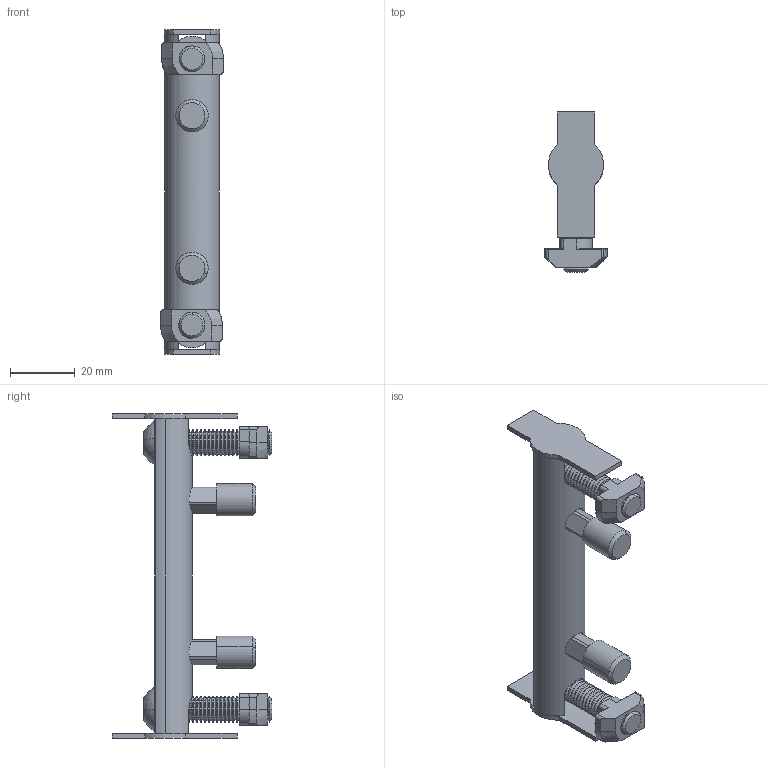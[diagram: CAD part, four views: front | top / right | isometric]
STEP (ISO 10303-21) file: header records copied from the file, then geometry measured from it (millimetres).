
FILE_DESCRIPTION (( 'STEP AP203' ), '1' );
FILE_NAME ('322050_Bolzenverbinder-Satz Ø17x100.step', '2021-12-20T12:53:30', ( '' ), ( '' ), 'SwSTEP 2.0', 'SolidWorks 2021', '' );
FILE_SCHEMA (( 'CONFIG_CONTROL_DESIGN' ));
Length unit declared in the file: millimetre
Products named in the file (6): 999510 Abdeckkappe für Bolzenverbinder Ø17; ISO 7380 - M8 x 35 - 35S_ISO 7380 - M8 x 35 - 35S; 322050_Bolzenverbinder-Satz Ø17x100; 999479 Fixierbolzen; 342040 Hammermutter Nut 10 M8; 99902005 Bolzenverbinder Ø17x100
Assembly tree (9 placements, depth 2):
  322050_Bolzenverbinder-Satz Ø17x100
    99902005 Bolzenverbinder Ø17x100
    ISO 7380 - M8 x 35 - 35S_ISO 7380 - M8 x 35 - 35S  x2
    999479 Fixierbolzen  x2
    342040 Hammermutter Nut 10 M8  x2
    999510 Abdeckkappe für Bolzenverbinder Ø17  x2
Bounding box: 19.3 x 49.13 x 100 mm (x, y, z)
Volume: 22507.3 mm3; surface area: 14826.7 mm2
Topology: 9 solids, 9 shells, 600 faces, 1592 edges, 1012 vertices
Faces by surface type: cone 224, cylinder 211, plane 147, torus 8, bspline 6, sphere 4
Entity records: 14221 total; most frequent: CARTESIAN_POINT 5580, DIRECTION 1746, ORIENTED_EDGE 1668, EDGE_CURVE 834, AXIS2_PLACEMENT_3D 683, VERTEX_POINT 532, VECTOR 380, LINE 380
